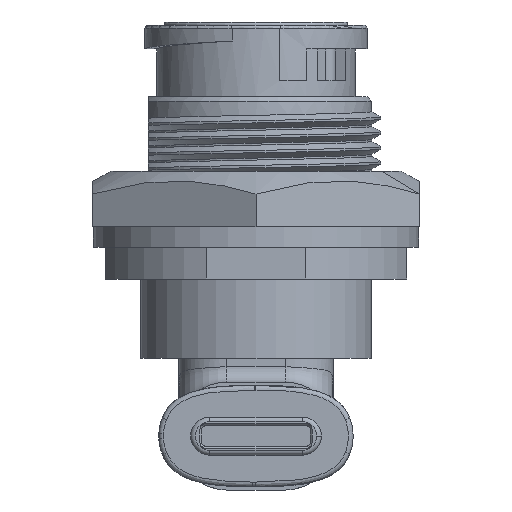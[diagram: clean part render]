
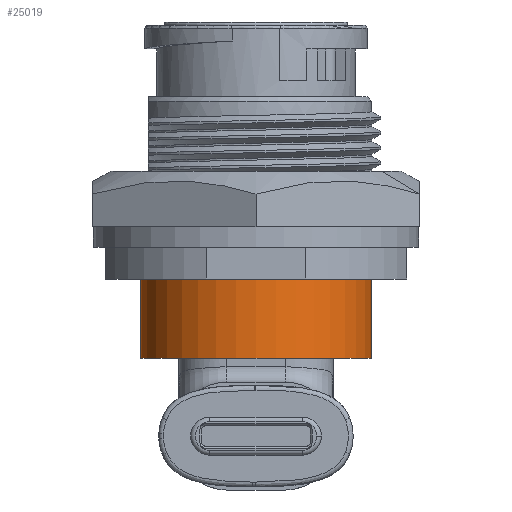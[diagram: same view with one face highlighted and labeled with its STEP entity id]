
A CAD part, front view. The second image highlights one B-rep face of the part: STEP entity #25019.
In plain terms, the highlighted cylindrical face has radius 7.3 mm (diameter 14.6 mm), a partial arc.
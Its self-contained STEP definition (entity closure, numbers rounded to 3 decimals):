
#496 = VECTOR ( 'NONE', #26412, 1000. ) ;
#640 = LINE ( 'NONE', #6936, #496 ) ;
#1061 = CARTESIAN_POINT ( 'NONE',  ( 0., 0., 0. ) ) ;
#1472 = VERTEX_POINT ( 'NONE', #7357 ) ;
#2672 = EDGE_CURVE ( 'NONE', #19306, #15494, #15179, .T. ) ;
#3983 = CIRCLE ( 'NONE', #21249, 7.3 ) ;
#6936 = CARTESIAN_POINT ( 'NONE',  ( -7.3, 0., 0. ) ) ;
#7317 = ORIENTED_EDGE ( 'NONE', *, *, #18212, .F. ) ;
#7357 = CARTESIAN_POINT ( 'NONE',  ( -7.3, 0., -5. ) ) ;
#8755 = AXIS2_PLACEMENT_3D ( 'NONE', #25559, #19016, #12330 ) ;
#9776 = ORIENTED_EDGE ( 'NONE', *, *, #23382, .T. ) ;
#10600 = ORIENTED_EDGE ( 'NONE', *, *, #13899, .T. ) ;
#11246 = DIRECTION ( 'NONE',  ( 0., 0., 1. ) ) ;
#12232 = CARTESIAN_POINT ( 'NONE',  ( 7.3, 0., 0. ) ) ;
#12330 = DIRECTION ( 'NONE',  ( 1., 0., 0. ) ) ;
#13899 = EDGE_CURVE ( 'NONE', #1472, #27673, #3983, .T. ) ;
#15179 = CIRCLE ( 'NONE', #25630, 7.3 ) ;
#15396 = CARTESIAN_POINT ( 'NONE',  ( 7.3, 0., -5. ) ) ;
#15494 = VERTEX_POINT ( 'NONE', #23008 ) ;
#15629 = ORIENTED_EDGE ( 'NONE', *, *, #2672, .F. ) ;
#17890 = VECTOR ( 'NONE', #25321, 1000. ) ;
#18212 = EDGE_CURVE ( 'NONE', #1472, #19306, #640, .T. ) ;
#19016 = DIRECTION ( 'NONE',  ( 0., 0., 1. ) ) ;
#19306 = VERTEX_POINT ( 'NONE', #22722 ) ;
#20627 = LINE ( 'NONE', #12232, #17890 ) ;
#21249 = AXIS2_PLACEMENT_3D ( 'NONE', #24194, #11246, #23920 ) ;
#22722 = CARTESIAN_POINT ( 'NONE',  ( -7.3, 0., 0. ) ) ;
#23008 = CARTESIAN_POINT ( 'NONE',  ( 7.3, 0., 0. ) ) ;
#23382 = EDGE_CURVE ( 'NONE', #27673, #15494, #20627, .T. ) ;
#23426 = CYLINDRICAL_SURFACE ( 'NONE', #8755, 7.3 ) ;
#23920 = DIRECTION ( 'NONE',  ( 1., 0., 0. ) ) ;
#24194 = CARTESIAN_POINT ( 'NONE',  ( 0., 0., -5. ) ) ;
#25019 = ADVANCED_FACE ( 'NONE', ( #27123 ), #23426, .T. ) ;
#25265 = DIRECTION ( 'NONE',  ( 0., 0., 1. ) ) ;
#25321 = DIRECTION ( 'NONE',  ( 0., 0., 1. ) ) ;
#25539 = EDGE_LOOP ( 'NONE', ( #7317, #10600, #9776, #15629 ) ) ;
#25559 = CARTESIAN_POINT ( 'NONE',  ( 0., 0., 0. ) ) ;
#25630 = AXIS2_PLACEMENT_3D ( 'NONE', #1061, #25265, #26986 ) ;
#26412 = DIRECTION ( 'NONE',  ( 0., 0., 1. ) ) ;
#26986 = DIRECTION ( 'NONE',  ( 1., 0., 0. ) ) ;
#27123 = FACE_OUTER_BOUND ( 'NONE', #25539, .T. ) ;
#27673 = VERTEX_POINT ( 'NONE', #15396 ) ;
